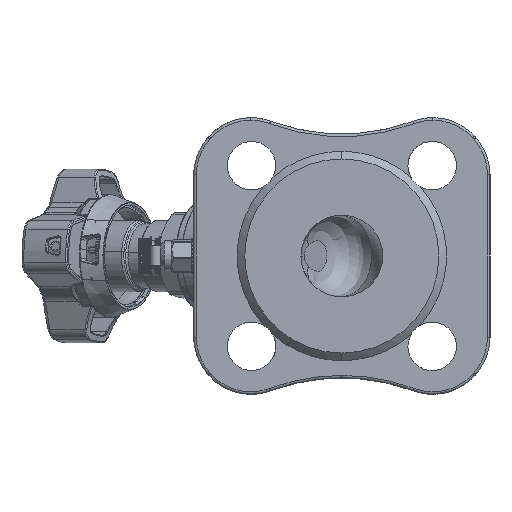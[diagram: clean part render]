
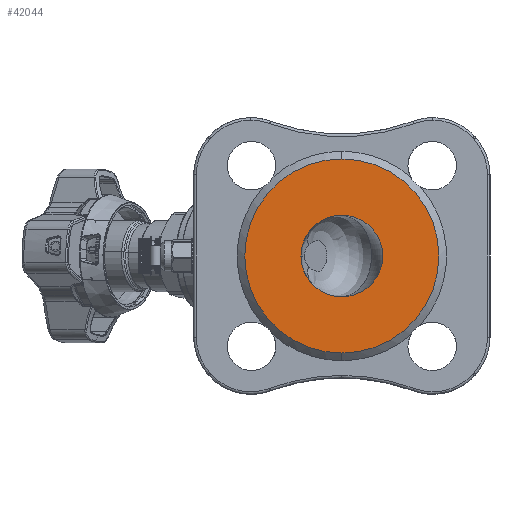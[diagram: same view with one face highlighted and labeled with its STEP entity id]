
A CAD part, left-side view. The second image highlights one B-rep face of the part: STEP entity #42044.
In plain terms, the highlighted planar face has unit normal (-1, 0, 0).
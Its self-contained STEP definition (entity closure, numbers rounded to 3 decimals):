
#19488 = CIRCLE ( 'NONE', #135120, 38. ) ;
#22401 = DIRECTION ( 'NONE',  ( 0., 0., 1. ) ) ;
#23812 = AXIS2_PLACEMENT_3D ( 'NONE', #175512, #99967, #22401 ) ;
#24316 = DIRECTION ( 'NONE',  ( 0., 0., 1. ) ) ;
#32091 = CARTESIAN_POINT ( 'NONE',  ( -90., 0., 38. ) ) ;
#36152 = PLANE ( 'NONE',  #166704 ) ;
#38202 = FACE_OUTER_BOUND ( 'NONE', #118822, .T. ) ;
#42044 = ADVANCED_FACE ( 'NONE', ( #38202, #84750 ), #36152, .T. ) ;
#44392 = VERTEX_POINT ( 'NONE', #60585 ) ;
#49903 = EDGE_CURVE ( 'NONE', #117860, #169512, #19488, .T. ) ;
#60585 = CARTESIAN_POINT ( 'NONE',  ( -90., 0., -16. ) ) ;
#61098 = EDGE_CURVE ( 'NONE', #44392, #111485, #103460, .T. ) ;
#77141 = EDGE_LOOP ( 'NONE', ( #156036, #158277 ) ) ;
#80292 = EDGE_CURVE ( 'NONE', #169512, #117860, #178261, .T. ) ;
#80734 = CARTESIAN_POINT ( 'NONE',  ( -90., 0., 0. ) ) ;
#83408 = ORIENTED_EDGE ( 'NONE', *, *, #49903, .T. ) ;
#84750 = FACE_BOUND ( 'NONE', #77141, .T. ) ;
#90502 = EDGE_CURVE ( 'NONE', #111485, #44392, #112956, .T. ) ;
#95150 = CARTESIAN_POINT ( 'NONE',  ( -90., 0., 0. ) ) ;
#95768 = AXIS2_PLACEMENT_3D ( 'NONE', #95150, #191307, #190292 ) ;
#99240 = DIRECTION ( 'NONE',  ( 0., 0., 1. ) ) ;
#99967 = DIRECTION ( 'NONE',  ( -1., 0., 0. ) ) ;
#100256 = DIRECTION ( 'NONE',  ( -1., 0., 0. ) ) ;
#103460 = CIRCLE ( 'NONE', #129896, 16. ) ;
#104071 = CARTESIAN_POINT ( 'NONE',  ( -90., 0., -38. ) ) ;
#108703 = DIRECTION ( 'NONE',  ( -1., 0., 0. ) ) ;
#111485 = VERTEX_POINT ( 'NONE', #136162 ) ;
#112956 = CIRCLE ( 'NONE', #23812, 16. ) ;
#117860 = VERTEX_POINT ( 'NONE', #32091 ) ;
#118822 = EDGE_LOOP ( 'NONE', ( #198026, #83408 ) ) ;
#129896 = AXIS2_PLACEMENT_3D ( 'NONE', #164998, #149486, #24316 ) ;
#132340 = CARTESIAN_POINT ( 'NONE',  ( -90., -38., 0. ) ) ;
#135120 = AXIS2_PLACEMENT_3D ( 'NONE', #80734, #108703, #159327 ) ;
#136162 = CARTESIAN_POINT ( 'NONE',  ( -90., 0., 16. ) ) ;
#149486 = DIRECTION ( 'NONE',  ( -1., 0., 0. ) ) ;
#156036 = ORIENTED_EDGE ( 'NONE', *, *, #90502, .F. ) ;
#158277 = ORIENTED_EDGE ( 'NONE', *, *, #61098, .F. ) ;
#159327 = DIRECTION ( 'NONE',  ( 0., 0., 1. ) ) ;
#164998 = CARTESIAN_POINT ( 'NONE',  ( -90., 0., 0. ) ) ;
#166704 = AXIS2_PLACEMENT_3D ( 'NONE', #132340, #100256, #99240 ) ;
#169512 = VERTEX_POINT ( 'NONE', #104071 ) ;
#175512 = CARTESIAN_POINT ( 'NONE',  ( -90., 0., 0. ) ) ;
#178261 = CIRCLE ( 'NONE', #95768, 38. ) ;
#190292 = DIRECTION ( 'NONE',  ( 0., 0., 1. ) ) ;
#191307 = DIRECTION ( 'NONE',  ( -1., 0., 0. ) ) ;
#198026 = ORIENTED_EDGE ( 'NONE', *, *, #80292, .T. ) ;
